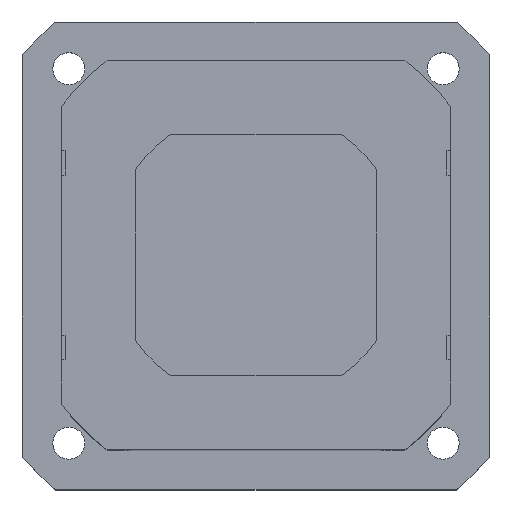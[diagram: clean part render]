
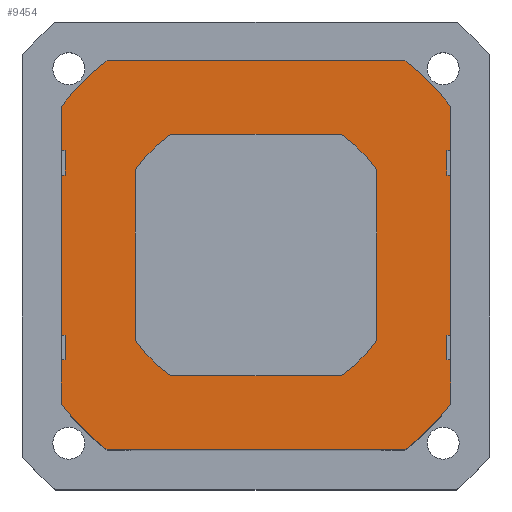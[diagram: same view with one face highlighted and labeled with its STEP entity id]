
A CAD part, top view. The second image highlights one B-rep face of the part: STEP entity #9454.
In plain terms, the highlighted planar face has unit normal (0, 0, 1).
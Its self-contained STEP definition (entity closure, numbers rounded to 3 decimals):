
#2115=CIRCLE('',#10402,99.5);
#2116=CIRCLE('',#10403,99.5);
#2117=CIRCLE('',#10404,99.5);
#2118=CIRCLE('',#10405,99.5);
#2591=VERTEX_POINT('',#13390);
#2592=VERTEX_POINT('',#13391);
#2593=VERTEX_POINT('',#13393);
#2594=VERTEX_POINT('',#13395);
#2595=VERTEX_POINT('',#13397);
#2596=VERTEX_POINT('',#13399);
#2597=VERTEX_POINT('',#13401);
#2598=VERTEX_POINT('',#13403);
#2599=VERTEX_POINT('',#13405);
#2600=VERTEX_POINT('',#13407);
#2601=VERTEX_POINT('',#13409);
#2602=VERTEX_POINT('',#13411);
#2603=VERTEX_POINT('',#13413);
#2604=VERTEX_POINT('',#13415);
#2605=VERTEX_POINT('',#13417);
#2606=VERTEX_POINT('',#13419);
#2607=VERTEX_POINT('',#13421);
#2608=VERTEX_POINT('',#13423);
#2609=VERTEX_POINT('',#13425);
#2610=VERTEX_POINT('',#13427);
#2611=VERTEX_POINT('',#13429);
#2612=VERTEX_POINT('',#13431);
#2613=VERTEX_POINT('',#13433);
#2614=VERTEX_POINT('',#13435);
#3547=LINE('',#13389,#11449);
#3548=LINE('',#13394,#11450);
#3549=LINE('',#13396,#11451);
#3550=LINE('',#13398,#11452);
#3551=LINE('',#13400,#11453);
#3552=LINE('',#13402,#11454);
#3553=LINE('',#13404,#11455);
#3554=LINE('',#13406,#11456);
#3555=LINE('',#13408,#11457);
#3556=LINE('',#13410,#11458);
#3557=LINE('',#13414,#11459);
#3558=LINE('',#13418,#11460);
#3559=LINE('',#13420,#11461);
#3560=LINE('',#13422,#11462);
#3561=LINE('',#13424,#11463);
#3562=LINE('',#13426,#11464);
#3563=LINE('',#13428,#11465);
#3564=LINE('',#13430,#11466);
#3565=LINE('',#13432,#11467);
#3566=LINE('',#13434,#11468);
#4401=EDGE_CURVE('',#2591,#2592,#3547,.T.);
#4402=EDGE_CURVE('',#2593,#2591,#2115,.T.);
#4403=EDGE_CURVE('',#2594,#2593,#3548,.T.);
#4404=EDGE_CURVE('',#2595,#2594,#3549,.T.);
#4405=EDGE_CURVE('',#2596,#2595,#3550,.T.);
#4406=EDGE_CURVE('',#2597,#2596,#3551,.T.);
#4407=EDGE_CURVE('',#2598,#2597,#3552,.T.);
#4408=EDGE_CURVE('',#2599,#2598,#3553,.T.);
#4409=EDGE_CURVE('',#2600,#2599,#3554,.T.);
#4410=EDGE_CURVE('',#2601,#2600,#3555,.T.);
#4411=EDGE_CURVE('',#2602,#2601,#3556,.T.);
#4412=EDGE_CURVE('',#2603,#2602,#2116,.T.);
#4413=EDGE_CURVE('',#2604,#2603,#3557,.T.);
#4414=EDGE_CURVE('',#2605,#2604,#2117,.T.);
#4415=EDGE_CURVE('',#2606,#2605,#3558,.T.);
#4416=EDGE_CURVE('',#2607,#2606,#3559,.T.);
#4417=EDGE_CURVE('',#2608,#2607,#3560,.T.);
#4418=EDGE_CURVE('',#2609,#2608,#3561,.T.);
#4419=EDGE_CURVE('',#2610,#2609,#3562,.T.);
#4420=EDGE_CURVE('',#2611,#2610,#3563,.T.);
#4421=EDGE_CURVE('',#2612,#2611,#3564,.T.);
#4422=EDGE_CURVE('',#2613,#2612,#3565,.T.);
#4423=EDGE_CURVE('',#2614,#2613,#3566,.T.);
#4424=EDGE_CURVE('',#2592,#2614,#2118,.T.);
#5905=ORIENTED_EDGE('',*,*,#4401,.F.);
#5906=ORIENTED_EDGE('',*,*,#4402,.F.);
#5907=ORIENTED_EDGE('',*,*,#4403,.F.);
#5908=ORIENTED_EDGE('',*,*,#4404,.F.);
#5909=ORIENTED_EDGE('',*,*,#4405,.F.);
#5910=ORIENTED_EDGE('',*,*,#4406,.F.);
#5911=ORIENTED_EDGE('',*,*,#4407,.F.);
#5912=ORIENTED_EDGE('',*,*,#4408,.F.);
#5913=ORIENTED_EDGE('',*,*,#4409,.F.);
#5914=ORIENTED_EDGE('',*,*,#4410,.F.);
#5915=ORIENTED_EDGE('',*,*,#4411,.F.);
#5916=ORIENTED_EDGE('',*,*,#4412,.F.);
#5917=ORIENTED_EDGE('',*,*,#4413,.F.);
#5918=ORIENTED_EDGE('',*,*,#4414,.F.);
#5919=ORIENTED_EDGE('',*,*,#4415,.F.);
#5920=ORIENTED_EDGE('',*,*,#4416,.F.);
#5921=ORIENTED_EDGE('',*,*,#4417,.F.);
#5922=ORIENTED_EDGE('',*,*,#4418,.F.);
#5923=ORIENTED_EDGE('',*,*,#4419,.F.);
#5924=ORIENTED_EDGE('',*,*,#4420,.F.);
#5925=ORIENTED_EDGE('',*,*,#4421,.F.);
#5926=ORIENTED_EDGE('',*,*,#4422,.F.);
#5927=ORIENTED_EDGE('',*,*,#4423,.F.);
#5928=ORIENTED_EDGE('',*,*,#4424,.F.);
#8125=EDGE_LOOP('',(#5905,#5906,#5907,#5908,#5909,#5910,#5911,#5912,#5913,
#5914,#5915,#5916,#5917,#5918,#5919,#5920,#5921,#5922,#5923,#5924,#5925,
#5926,#5927,#5928));
#8805=FACE_BOUND('',#8125,.T.);
#9454=ADVANCED_FACE('',(#8805),#12145,.T.);
#10401=AXIS2_PLACEMENT_3D('',#13388,#17430,$);
#10402=AXIS2_PLACEMENT_3D('',#13392,#17432,#17433);
#10403=AXIS2_PLACEMENT_3D('',#13412,#17443,#17444);
#10404=AXIS2_PLACEMENT_3D('',#13416,#17446,#17447);
#10405=AXIS2_PLACEMENT_3D('',#13436,#17457,#17458);
#11449=VECTOR('',#17431,1.);
#11450=VECTOR('',#17434,1.);
#11451=VECTOR('',#17435,1.);
#11452=VECTOR('',#17436,1.);
#11453=VECTOR('',#17437,1.);
#11454=VECTOR('',#17438,1.);
#11455=VECTOR('',#17439,1.);
#11456=VECTOR('',#17440,1.);
#11457=VECTOR('',#17441,1.);
#11458=VECTOR('',#17442,1.);
#11459=VECTOR('',#17445,1.);
#11460=VECTOR('',#17448,1.);
#11461=VECTOR('',#17449,1.);
#11462=VECTOR('',#17450,1.);
#11463=VECTOR('',#17451,1.);
#11464=VECTOR('',#17452,1.);
#11465=VECTOR('',#17453,1.);
#11466=VECTOR('',#17454,1.);
#11467=VECTOR('',#17455,1.);
#11468=VECTOR('',#17456,1.);
#12145=PLANE('',#10401);
#13388=CARTESIAN_POINT('',(0.,0.,
44.));
#13389=CARTESIAN_POINT('',(-60.492,-79.,44.));
#13390=CARTESIAN_POINT('',(60.492,-79.,44.));
#13391=CARTESIAN_POINT('',(-60.492,-79.,44.));
#13392=CARTESIAN_POINT('',(0.,0.,44.));
#13393=CARTESIAN_POINT('',(79.,-60.492,44.));
#13394=CARTESIAN_POINT('',(79.,-60.492,44.));
#13395=CARTESIAN_POINT('',(79.,-42.5,44.));
#13396=CARTESIAN_POINT('',(79.,-42.5,44.));
#13397=CARTESIAN_POINT('',(77.5,-42.5,44.));
#13398=CARTESIAN_POINT('',(77.5,-42.5,44.));
#13399=CARTESIAN_POINT('',(77.5,-32.5,44.));
#13400=CARTESIAN_POINT('',(77.5,-32.5,44.));
#13401=CARTESIAN_POINT('',(79.,-32.5,44.));
#13402=CARTESIAN_POINT('',(79.,-32.5,44.));
#13403=CARTESIAN_POINT('',(79.,32.5,44.));
#13404=CARTESIAN_POINT('',(79.,32.5,44.));
#13405=CARTESIAN_POINT('',(77.5,32.5,44.));
#13406=CARTESIAN_POINT('',(77.5,32.5,44.));
#13407=CARTESIAN_POINT('',(77.5,42.5,44.));
#13408=CARTESIAN_POINT('',(77.5,42.5,44.));
#13409=CARTESIAN_POINT('',(79.,42.5,44.));
#13410=CARTESIAN_POINT('',(79.,42.5,44.));
#13411=CARTESIAN_POINT('',(79.,60.492,44.));
#13412=CARTESIAN_POINT('',(0.,0.,44.));
#13413=CARTESIAN_POINT('',(60.492,79.,44.));
#13414=CARTESIAN_POINT('',(60.492,79.,44.));
#13415=CARTESIAN_POINT('',(-60.492,79.,44.));
#13416=CARTESIAN_POINT('',(0.,0.,44.));
#13417=CARTESIAN_POINT('',(-79.,60.492,44.));
#13418=CARTESIAN_POINT('',(-79.,60.492,44.));
#13419=CARTESIAN_POINT('',(-79.,42.5,44.));
#13420=CARTESIAN_POINT('',(-79.,42.5,44.));
#13421=CARTESIAN_POINT('',(-77.5,42.5,44.));
#13422=CARTESIAN_POINT('',(-77.5,42.5,44.));
#13423=CARTESIAN_POINT('',(-77.5,32.5,44.));
#13424=CARTESIAN_POINT('',(-77.5,32.5,44.));
#13425=CARTESIAN_POINT('',(-79.,32.5,44.));
#13426=CARTESIAN_POINT('',(-79.,32.5,44.));
#13427=CARTESIAN_POINT('',(-79.,-32.5,44.));
#13428=CARTESIAN_POINT('',(-79.,-32.5,44.));
#13429=CARTESIAN_POINT('',(-77.5,-32.5,44.));
#13430=CARTESIAN_POINT('',(-77.5,-32.5,44.));
#13431=CARTESIAN_POINT('',(-77.5,-42.5,44.));
#13432=CARTESIAN_POINT('',(-77.5,-42.5,44.));
#13433=CARTESIAN_POINT('',(-79.,-42.5,44.));
#13434=CARTESIAN_POINT('',(-79.,-42.5,44.));
#13435=CARTESIAN_POINT('',(-79.,-60.492,44.));
#13436=CARTESIAN_POINT('',(0.,0.,44.));
#17430=DIRECTION('',(0.,0.,1.));
#17431=DIRECTION('',(-1.,0.,0.));
#17432=DIRECTION('',(0.,0.,-1.));
#17433=DIRECTION('',(99.5,0.,0.));
#17434=DIRECTION('',(0.,-1.,0.));
#17435=DIRECTION('',(1.,0.,0.));
#17436=DIRECTION('',(0.,-1.,0.));
#17437=DIRECTION('',(-1.,0.,0.));
#17438=DIRECTION('',(0.,-1.,0.));
#17439=DIRECTION('',(1.,0.,0.));
#17440=DIRECTION('',(0.,-1.,0.));
#17441=DIRECTION('',(-1.,0.,0.));
#17442=DIRECTION('',(0.,-1.,0.));
#17443=DIRECTION('',(0.,0.,-1.));
#17444=DIRECTION('',(99.5,0.,0.));
#17445=DIRECTION('',(1.,0.,0.));
#17446=DIRECTION('',(0.,0.,-1.));
#17447=DIRECTION('',(99.5,0.,0.));
#17448=DIRECTION('',(0.,1.,0.));
#17449=DIRECTION('',(-1.,0.,0.));
#17450=DIRECTION('',(0.,1.,0.));
#17451=DIRECTION('',(1.,0.,0.));
#17452=DIRECTION('',(0.,1.,0.));
#17453=DIRECTION('',(-1.,0.,0.));
#17454=DIRECTION('',(0.,1.,0.));
#17455=DIRECTION('',(1.,0.,0.));
#17456=DIRECTION('',(0.,1.,0.));
#17457=DIRECTION('',(0.,0.,-1.));
#17458=DIRECTION('',(99.5,0.,0.));
